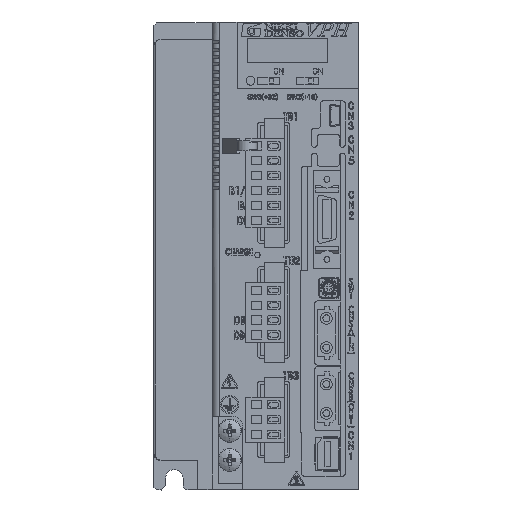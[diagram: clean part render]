
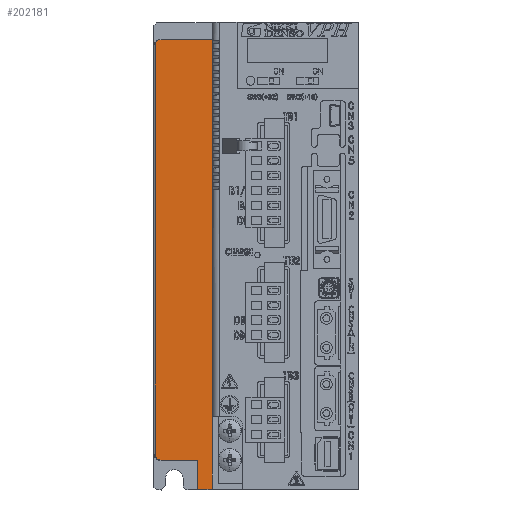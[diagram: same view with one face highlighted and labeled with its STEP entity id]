
A CAD part, top view. The second image highlights one B-rep face of the part: STEP entity #202181.
In plain terms, the highlighted planar face has unit normal (0, 0, 1).
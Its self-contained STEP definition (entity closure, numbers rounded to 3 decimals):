
#5165 = DIRECTION ( 'NONE',  ( -1., 0., 0. ) ) ;
#5343 = ORIENTED_EDGE ( 'NONE', *, *, #70073, .F. ) ;
#6933 = VERTEX_POINT ( 'NONE', #230414 ) ;
#10016 = CARTESIAN_POINT ( 'NONE',  ( -67.5, -147.5, 151.5 ) ) ;
#10834 = DIRECTION ( 'NONE',  ( 0., 1., 0. ) ) ;
#14816 = DIRECTION ( 'NONE',  ( 1., 0., 0. ) ) ;
#17625 = CARTESIAN_POINT ( 'NONE',  ( -50., -160., 151.5 ) ) ;
#20682 = ORIENTED_EDGE ( 'NONE', *, *, #35837, .F. ) ;
#23847 = CIRCLE ( 'NONE', #142764, 2.5 ) ;
#29800 = CIRCLE ( 'NONE', #119053, 2.5 ) ;
#30195 = DIRECTION ( 'NONE',  ( 0., 0., -1. ) ) ;
#33605 = VERTEX_POINT ( 'NONE', #17625 ) ;
#34087 = LINE ( 'NONE', #223431, #124249 ) ;
#35837 = EDGE_CURVE ( 'NONE', #183464, #223842, #23847, .T. ) ;
#36230 = DIRECTION ( 'NONE',  ( -1., 0., 0. ) ) ;
#38059 = LINE ( 'NONE', #110956, #188550 ) ;
#40282 = VECTOR ( 'NONE', #273943, 1000. ) ;
#53047 = VECTOR ( 'NONE', #62691, 1000. ) ;
#62691 = DIRECTION ( 'NONE',  ( 0., 1., 0. ) ) ;
#70073 = EDGE_CURVE ( 'NONE', #211248, #222014, #38059, .T. ) ;
#72350 = DIRECTION ( 'NONE',  ( 0., 0., -1. ) ) ;
#75770 = ORIENTED_EDGE ( 'NONE', *, *, #143683, .F. ) ;
#77986 = CARTESIAN_POINT ( 'NONE',  ( -50., -160., 151.5 ) ) ;
#81931 = EDGE_CURVE ( 'NONE', #223842, #232228, #228873, .T. ) ;
#86027 = CARTESIAN_POINT ( 'NONE',  ( -69.5, -160., 151.5 ) ) ;
#87608 = CARTESIAN_POINT ( 'NONE',  ( -55., -160., 151.5 ) ) ;
#106795 = ORIENTED_EDGE ( 'NONE', *, *, #152590, .F. ) ;
#110581 = LINE ( 'NONE', #248903, #294200 ) ;
#110956 = CARTESIAN_POINT ( 'NONE',  ( -50., -6., 151.5 ) ) ;
#119053 = AXIS2_PLACEMENT_3D ( 'NONE', #243096, #72350, #263306 ) ;
#121787 = CARTESIAN_POINT ( 'NONE',  ( -67.5, -150., 151.5 ) ) ;
#124249 = VECTOR ( 'NONE', #10834, 1000. ) ;
#134244 = AXIS2_PLACEMENT_3D ( 'NONE', #170086, #212180, #236918 ) ;
#136007 = FACE_OUTER_BOUND ( 'NONE', #291931, .T. ) ;
#142764 = AXIS2_PLACEMENT_3D ( 'NONE', #10016, #30195, #289476 ) ;
#143683 = EDGE_CURVE ( 'NONE', #33605, #6933, #289220, .T. ) ;
#152590 = EDGE_CURVE ( 'NONE', #256550, #183464, #110581, .T. ) ;
#156200 = EDGE_CURVE ( 'NONE', #232228, #211248, #29800, .T. ) ;
#166632 = VECTOR ( 'NONE', #5165, 1000. ) ;
#169469 = ORIENTED_EDGE ( 'NONE', *, *, #209014, .T. ) ;
#170086 = CARTESIAN_POINT ( 'NONE',  ( -50., -160., 151.5 ) ) ;
#171685 = EDGE_CURVE ( 'NONE', #6933, #256550, #207164, .T. ) ;
#172168 = CARTESIAN_POINT ( 'NONE',  ( -55., -150., 151.5 ) ) ;
#183464 = VERTEX_POINT ( 'NONE', #121787 ) ;
#188550 = VECTOR ( 'NONE', #14816, 1000. ) ;
#196720 = ORIENTED_EDGE ( 'NONE', *, *, #171685, .F. ) ;
#202181 = ADVANCED_FACE ( 'NONE', ( #136007 ), #230810, .F. ) ;
#207164 = LINE ( 'NONE', #87608, #40282 ) ;
#209014 = EDGE_CURVE ( 'NONE', #33605, #222014, #34087, .T. ) ;
#211248 = VERTEX_POINT ( 'NONE', #230891 ) ;
#212180 = DIRECTION ( 'NONE',  ( 0., 0., -1. ) ) ;
#219775 = ORIENTED_EDGE ( 'NONE', *, *, #156200, .F. ) ;
#222014 = VERTEX_POINT ( 'NONE', #256526 ) ;
#223431 = CARTESIAN_POINT ( 'NONE',  ( -50., -160., 151.5 ) ) ;
#223842 = VERTEX_POINT ( 'NONE', #240295 ) ;
#228873 = LINE ( 'NONE', #86027, #53047 ) ;
#230414 = CARTESIAN_POINT ( 'NONE',  ( -55., -160., 151.5 ) ) ;
#230810 = PLANE ( 'NONE',  #134244 ) ;
#230891 = CARTESIAN_POINT ( 'NONE',  ( -67.5, -6., 151.5 ) ) ;
#232228 = VERTEX_POINT ( 'NONE', #296599 ) ;
#236918 = DIRECTION ( 'NONE',  ( 1., 0., 0. ) ) ;
#240295 = CARTESIAN_POINT ( 'NONE',  ( -69.5, -149., 151.5 ) ) ;
#243096 = CARTESIAN_POINT ( 'NONE',  ( -67.5, -8.5, 151.5 ) ) ;
#248903 = CARTESIAN_POINT ( 'NONE',  ( -55., -150., 151.5 ) ) ;
#256526 = CARTESIAN_POINT ( 'NONE',  ( -50., -6., 151.5 ) ) ;
#256550 = VERTEX_POINT ( 'NONE', #172168 ) ;
#257820 = ORIENTED_EDGE ( 'NONE', *, *, #81931, .F. ) ;
#263306 = DIRECTION ( 'NONE',  ( -1., 0., 0. ) ) ;
#273943 = DIRECTION ( 'NONE',  ( 0., 1., 0. ) ) ;
#289220 = LINE ( 'NONE', #77986, #166632 ) ;
#289476 = DIRECTION ( 'NONE',  ( -1., 0., 0. ) ) ;
#291931 = EDGE_LOOP ( 'NONE', ( #5343, #219775, #257820, #20682, #106795, #196720, #75770, #169469 ) ) ;
#294200 = VECTOR ( 'NONE', #36230, 1000. ) ;
#296599 = CARTESIAN_POINT ( 'NONE',  ( -69.5, -7., 151.5 ) ) ;
